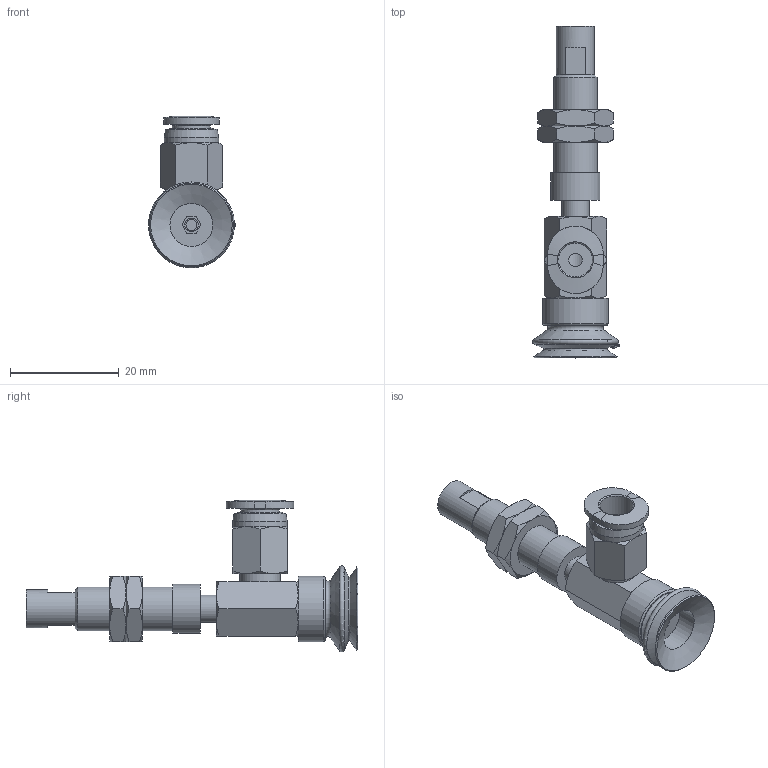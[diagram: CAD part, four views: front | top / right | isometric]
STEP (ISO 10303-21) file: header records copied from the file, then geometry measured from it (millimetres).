
FILE_DESCRIPTION(('STEP AP203'),'1');
FILE_NAME('-O.stp','2025-04-24T00:47:11',(' '),(' '),'Spatial InterOp 3D',' ',' ');
FILE_SCHEMA(('CONFIG_CONTROL_DESIGN'));
Length unit declared in the file: millimetre
Products named in the file (8): BNABPJYS-15-3-※-O; Adapter-15-NAPJ; CONNECTOR_S-15-3; NUT-NAPJ-15-3-s; NAPJTS-15-3-FBODY; NAPJTS-15-3-MBODY; BPJG-15-※; PC-C_06-M5
Assembly tree (8 placements, depth 2):
  BNABPJYS-15-3-※-O
    Adapter-15-NAPJ
    CONNECTOR_S-15-3
    NUT-NAPJ-15-3-s  x2
    NAPJTS-15-3-FBODY
    NAPJTS-15-3-MBODY
    BPJG-15-※
    PC-C_06-M5
Bounding box: 15.99 x 61 x 27.87 mm (x, y, z)
Volume: 4174.2 mm3; surface area: 6061.7 mm2
Topology: 7 solids, 10 shells, 202 faces, 425 edges, 255 vertices
Faces by surface type: plane 76, cone 71, cylinder 27, torus 11, bspline 10, sphere 4, revolution 3
Full cylindrical faces by diameter (mm): 2 x1, 2.5 x1, 4 x2, 4.134 x3, 4.6 x1, 5 x5, 7 x2, 7.188 x2, 7.4 x1, 7.9 x1, 8 x2, 8.2 x1, 9 x1, 10 x1, 12 x1
Entity records: 5296 total; most frequent: CARTESIAN_POINT 1466, DIRECTION 717, ORIENTED_EDGE 618, AXIS2_PLACEMENT_3D 315, EDGE_CURVE 311, EDGE_LOOP 261, VERTEX_POINT 216, FACE_OUTER_BOUND 152
